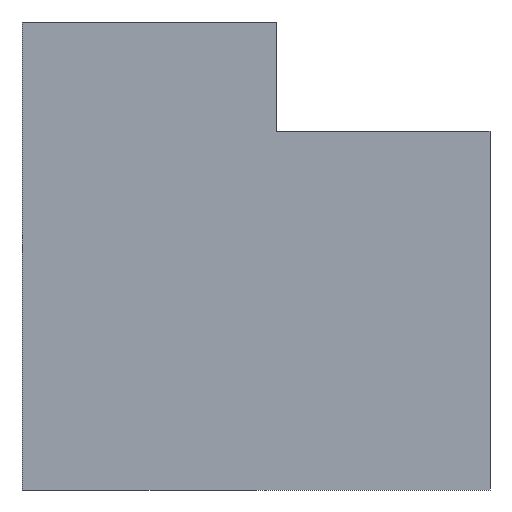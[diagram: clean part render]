
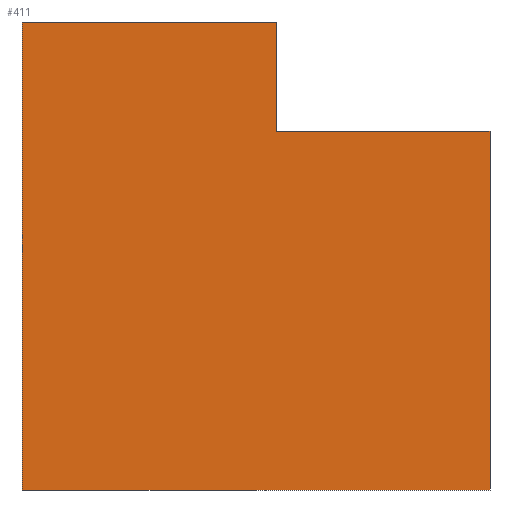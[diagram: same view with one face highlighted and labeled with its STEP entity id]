
A CAD part, left-side view. The second image highlights one B-rep face of the part: STEP entity #411.
In plain terms, the highlighted planar face has unit normal (-1, 0, 0).
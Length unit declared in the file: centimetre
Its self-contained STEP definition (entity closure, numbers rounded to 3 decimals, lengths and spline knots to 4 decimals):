
#11 = DIRECTION ( 'NONE',  ( 0., 0., -1. ) ) ;
#12 = VERTEX_POINT ( 'NONE', #230 ) ;
#16 = CARTESIAN_POINT ( 'NONE',  ( 0., 0., 766.1815 ) ) ;
#34 = LINE ( 'NONE', #66, #279 ) ;
#45 = CARTESIAN_POINT ( 'NONE',  ( 0., 456.8544, 766.1815 ) ) ;
#47 = VECTOR ( 'NONE', #63, 100. ) ;
#48 = CARTESIAN_POINT ( 'NONE',  ( 0., 1000., 1000. ) ) ;
#56 = ORIENTED_EDGE ( 'NONE', *, *, #290, .T. ) ;
#60 = VERTEX_POINT ( 'NONE', #383 ) ;
#63 = DIRECTION ( 'NONE',  ( 0., -1., 0. ) ) ;
#66 = CARTESIAN_POINT ( 'NONE',  ( 0., 1000., 0. ) ) ;
#87 = CARTESIAN_POINT ( 'NONE',  ( 0., 1000., 1000. ) ) ;
#92 = EDGE_LOOP ( 'NONE', ( #191, #262, #449, #266, #56, #442 ) ) ;
#93 = AXIS2_PLACEMENT_3D ( 'NONE', #403, #285, #116 ) ;
#105 = LINE ( 'NONE', #237, #47 ) ;
#116 = DIRECTION ( 'NONE',  ( 0., 0., -1. ) ) ;
#123 = EDGE_CURVE ( 'NONE', #12, #370, #171, .T. ) ;
#134 = CARTESIAN_POINT ( 'NONE',  ( 0., 0., 1000. ) ) ;
#148 = VECTOR ( 'NONE', #11, 100. ) ;
#171 = LINE ( 'NONE', #134, #278 ) ;
#180 = CARTESIAN_POINT ( 'NONE',  ( 0., 0., 0. ) ) ;
#189 = EDGE_CURVE ( 'NONE', #422, #335, #423, .T. ) ;
#191 = ORIENTED_EDGE ( 'NONE', *, *, #123, .F. ) ;
#195 = EDGE_CURVE ( 'NONE', #375, #422, #105, .T. ) ;
#215 = EDGE_CURVE ( 'NONE', #60, #370, #34, .T. ) ;
#230 = CARTESIAN_POINT ( 'NONE',  ( 0., 0., 766.1815 ) ) ;
#231 = LINE ( 'NONE', #87, #148 ) ;
#237 = CARTESIAN_POINT ( 'NONE',  ( 0., 1000., 1000. ) ) ;
#248 = CARTESIAN_POINT ( 'NONE',  ( 0., 456.8544, 1000. ) ) ;
#249 = PLANE ( 'NONE',  #93 ) ;
#262 = ORIENTED_EDGE ( 'NONE', *, *, #467, .F. ) ;
#266 = ORIENTED_EDGE ( 'NONE', *, *, #195, .F. ) ;
#278 = VECTOR ( 'NONE', #345, 100. ) ;
#279 = VECTOR ( 'NONE', #430, 100. ) ;
#285 = DIRECTION ( 'NONE',  ( 1., 0., 0. ) ) ;
#290 = EDGE_CURVE ( 'NONE', #375, #60, #231, .T. ) ;
#301 = DIRECTION ( 'NONE',  ( 0., -1., 0. ) ) ;
#332 = FACE_OUTER_BOUND ( 'NONE', #92, .T. ) ;
#335 = VERTEX_POINT ( 'NONE', #45 ) ;
#345 = DIRECTION ( 'NONE',  ( 0., 0., -1. ) ) ;
#370 = VERTEX_POINT ( 'NONE', #180 ) ;
#375 = VERTEX_POINT ( 'NONE', #48 ) ;
#383 = CARTESIAN_POINT ( 'NONE',  ( 0., 1000., 0. ) ) ;
#403 = CARTESIAN_POINT ( 'NONE',  ( 0., 1000., 1000. ) ) ;
#411 = ADVANCED_FACE ( 'NONE', ( #332 ), #249, .F. ) ;
#413 = LINE ( 'NONE', #16, #418 ) ;
#418 = VECTOR ( 'NONE', #301, 100. ) ;
#422 = VERTEX_POINT ( 'NONE', #248 ) ;
#423 = LINE ( 'NONE', #466, #448 ) ;
#430 = DIRECTION ( 'NONE',  ( 0., -1., 0. ) ) ;
#442 = ORIENTED_EDGE ( 'NONE', *, *, #215, .T. ) ;
#448 = VECTOR ( 'NONE', #458, 100. ) ;
#449 = ORIENTED_EDGE ( 'NONE', *, *, #189, .F. ) ;
#458 = DIRECTION ( 'NONE',  ( 0., 0., -1. ) ) ;
#466 = CARTESIAN_POINT ( 'NONE',  ( 0., 456.8544, 766.1815 ) ) ;
#467 = EDGE_CURVE ( 'NONE', #335, #12, #413, .T. ) ;
